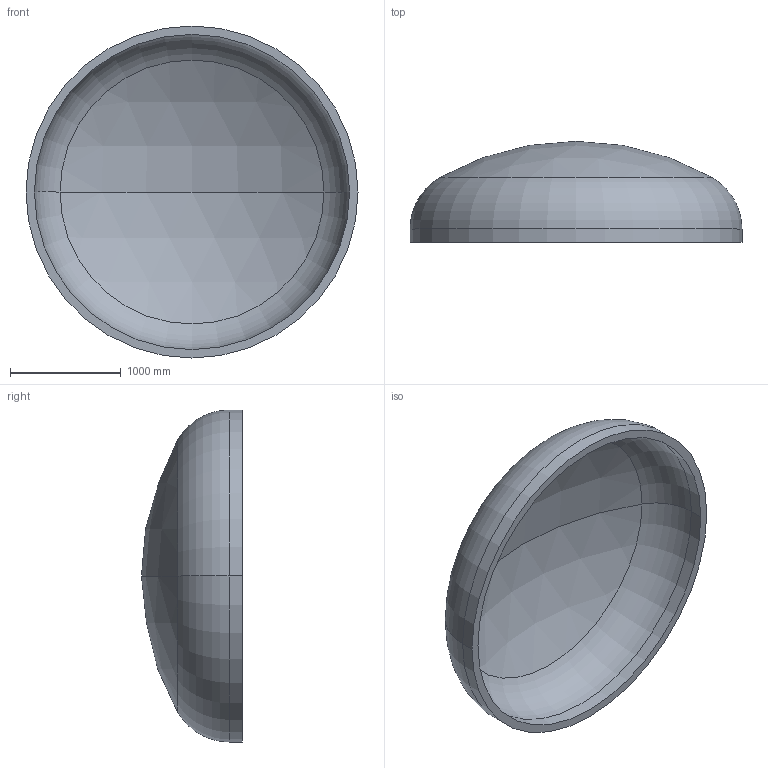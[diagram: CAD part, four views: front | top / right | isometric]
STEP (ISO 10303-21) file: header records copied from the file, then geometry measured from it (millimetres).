
FILE_DESCRIPTION (( 'STEP AP203' ), '1' );
FILE_NAME ('DIN 28013 Korbbogenform_-_Boden DIN 28013 - 3000 x 120 - I - s=76.step', '2016-07-01T17:59:43', ( '' ), ( '' ), 'SwSTEP 2.0', 'SolidWorks 2013', '' );
FILE_SCHEMA (( 'CONFIG_CONTROL_DESIGN' ));
Length unit declared in the file: millimetre
Products named in the file (1): DIN 28013 Korbbogenform_-_Boden DIN 28013 - 3000 x 120 - I - s=76
Bounding box: 3000 x 912.46 x 3000 mm (x, y, z)
Volume: 802875387.9 mm3; surface area: 21838527.2 mm2
Topology: 1 solids, 1 shells, 13 faces, 24 edges, 14 vertices
Faces by surface type: torus 4, cylinder 4, sphere 4, plane 1
Entity records: 407 total; most frequent: DIRECTION 72, CARTESIAN_POINT 52, ORIENTED_EDGE 48, AXIS2_PLACEMENT_3D 34, EDGE_CURVE 24, CIRCLE 20, VERTEX_POINT 14, EDGE_LOOP 14
